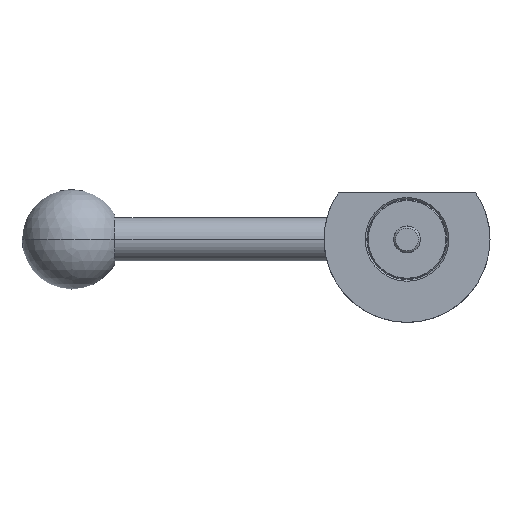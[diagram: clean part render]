
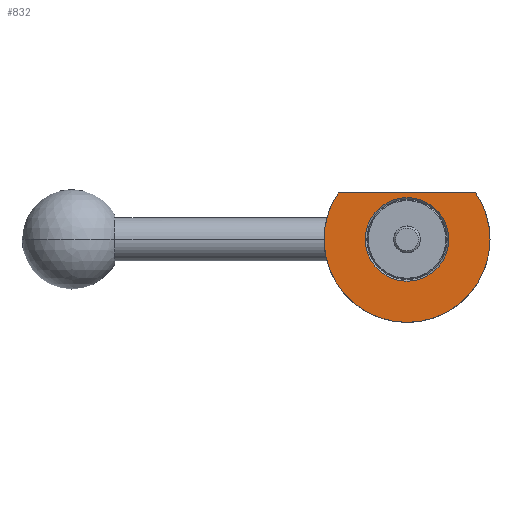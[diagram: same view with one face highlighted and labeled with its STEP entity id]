
A CAD part, front view. The second image highlights one B-rep face of the part: STEP entity #832.
In plain terms, the highlighted planar face has unit normal (0, -1, 0).
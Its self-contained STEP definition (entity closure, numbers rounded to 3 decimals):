
#47 = DIRECTION ( 'NONE',  ( 0., 1., 0. ) ) ;
#51 = DIRECTION ( 'NONE',  ( -1., 0., 0. ) ) ;
#145 = AXIS2_PLACEMENT_3D ( 'NONE', #230, #1168, #1320 ) ;
#219 = EDGE_CURVE ( 'NONE', #1699, #650, #990, .T. ) ;
#230 = CARTESIAN_POINT ( 'NONE',  ( -12.6, -12., 0. ) ) ;
#241 = FACE_OUTER_BOUND ( 'NONE', #437, .T. ) ;
#251 = CARTESIAN_POINT ( 'NONE',  ( 0., -12., 0. ) ) ;
#259 = DIRECTION ( 'NONE',  ( -1., 0., 0. ) ) ;
#270 = DIRECTION ( 'NONE',  ( 0., 1., 0. ) ) ;
#387 = DIRECTION ( 'NONE',  ( -1., 0., 0. ) ) ;
#437 = EDGE_LOOP ( 'NONE', ( #601, #547, #943, #913 ) ) ;
#520 = DIRECTION ( 'NONE',  ( -1., 0., 0. ) ) ;
#531 = VERTEX_POINT ( 'NONE', #1600 ) ;
#547 = ORIENTED_EDGE ( 'NONE', *, *, #219, .T. ) ;
#588 = AXIS2_PLACEMENT_3D ( 'NONE', #1191, #1848, #1684 ) ;
#601 = ORIENTED_EDGE ( 'NONE', *, *, #1416, .F. ) ;
#650 = VERTEX_POINT ( 'NONE', #1526 ) ;
#722 = AXIS2_PLACEMENT_3D ( 'NONE', #871, #1034, #259 ) ;
#756 = CIRCLE ( 'NONE', #722, 12.6 ) ;
#827 = DIRECTION ( 'NONE',  ( 0., 1., 0. ) ) ;
#832 = ADVANCED_FACE ( 'NONE', ( #1443, #241 ), #1652, .T. ) ;
#871 = CARTESIAN_POINT ( 'NONE',  ( 0., -12., 0. ) ) ;
#872 = EDGE_CURVE ( 'NONE', #531, #1422, #1371, .T. ) ;
#880 = CARTESIAN_POINT ( 'NONE',  ( -25., -12., 0. ) ) ;
#889 = DIRECTION ( 'NONE',  ( -1., 0., 0. ) ) ;
#890 = AXIS2_PLACEMENT_3D ( 'NONE', #1812, #270, #889 ) ;
#913 = ORIENTED_EDGE ( 'NONE', *, *, #872, .F. ) ;
#943 = ORIENTED_EDGE ( 'NONE', *, *, #1497, .F. ) ;
#977 = VECTOR ( 'NONE', #520, 1000. ) ;
#978 = CARTESIAN_POINT ( 'NONE',  ( -12.6, -12., 14. ) ) ;
#990 = LINE ( 'NONE', #978, #977 ) ;
#995 = EDGE_CURVE ( 'NONE', #1980, #1029, #1471, .T. ) ;
#1029 = VERTEX_POINT ( 'NONE', #1498 ) ;
#1034 = DIRECTION ( 'NONE',  ( 0., 1., 0. ) ) ;
#1168 = DIRECTION ( 'NONE',  ( 0., -1., 0. ) ) ;
#1186 = AXIS2_PLACEMENT_3D ( 'NONE', #1613, #827, #51 ) ;
#1191 = CARTESIAN_POINT ( 'NONE',  ( 0., -12., 0. ) ) ;
#1213 = ORIENTED_EDGE ( 'NONE', *, *, #995, .T. ) ;
#1320 = DIRECTION ( 'NONE',  ( 1., 0., 0. ) ) ;
#1340 = CIRCLE ( 'NONE', #1186, 25. ) ;
#1371 = CIRCLE ( 'NONE', #1738, 25. ) ;
#1408 = EDGE_CURVE ( 'NONE', #1029, #1980, #756, .T. ) ;
#1416 = EDGE_CURVE ( 'NONE', #1699, #531, #2007, .T. ) ;
#1422 = VERTEX_POINT ( 'NONE', #880 ) ;
#1443 = FACE_BOUND ( 'NONE', #1549, .T. ) ;
#1471 = CIRCLE ( 'NONE', #588, 12.6 ) ;
#1497 = EDGE_CURVE ( 'NONE', #1422, #650, #1340, .T. ) ;
#1498 = CARTESIAN_POINT ( 'NONE',  ( -12.6, -12., 0. ) ) ;
#1526 = CARTESIAN_POINT ( 'NONE',  ( -20.712, -12., 14. ) ) ;
#1549 = EDGE_LOOP ( 'NONE', ( #1213, #1658 ) ) ;
#1600 = CARTESIAN_POINT ( 'NONE',  ( 25., -12., 0. ) ) ;
#1613 = CARTESIAN_POINT ( 'NONE',  ( 0., -12., 0. ) ) ;
#1624 = CARTESIAN_POINT ( 'NONE',  ( 20.712, -12., 14. ) ) ;
#1652 = PLANE ( 'NONE',  #145 ) ;
#1658 = ORIENTED_EDGE ( 'NONE', *, *, #1408, .T. ) ;
#1684 = DIRECTION ( 'NONE',  ( -1., 0., 0. ) ) ;
#1699 = VERTEX_POINT ( 'NONE', #1624 ) ;
#1738 = AXIS2_PLACEMENT_3D ( 'NONE', #251, #47, #387 ) ;
#1801 = CARTESIAN_POINT ( 'NONE',  ( 12.6, -12., 0. ) ) ;
#1812 = CARTESIAN_POINT ( 'NONE',  ( 0., -12., 0. ) ) ;
#1848 = DIRECTION ( 'NONE',  ( 0., 1., 0. ) ) ;
#1980 = VERTEX_POINT ( 'NONE', #1801 ) ;
#2007 = CIRCLE ( 'NONE', #890, 25. ) ;
